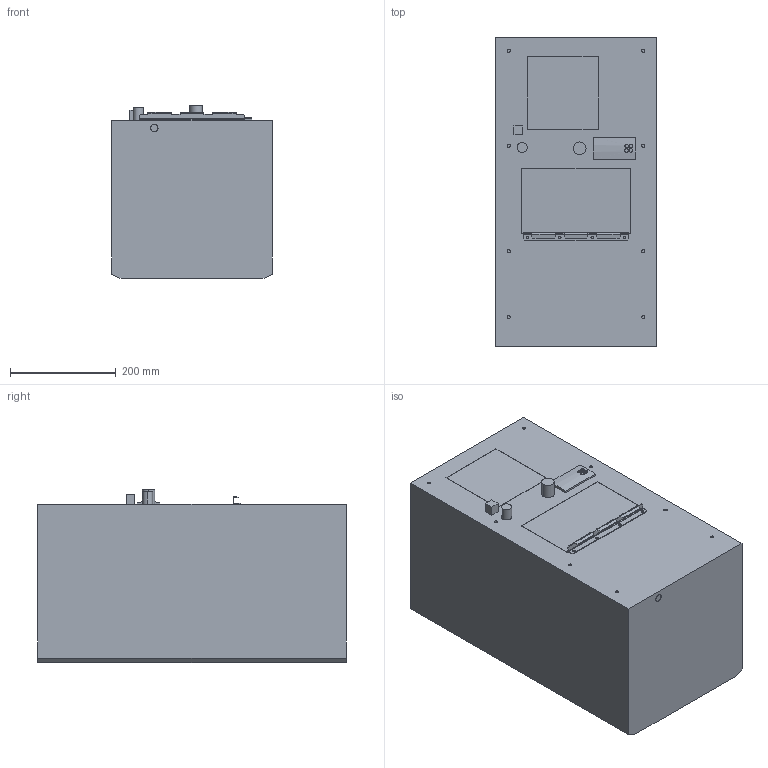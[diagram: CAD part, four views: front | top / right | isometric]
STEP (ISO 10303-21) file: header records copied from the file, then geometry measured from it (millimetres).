
FILE_DESCRIPTION((''),'2;1');
FILE_NAME('OC8708_12-COMPLETE_ASM','2023-12-04T17:41:37',('briang'),(''),'CREO PARAMETRIC BY PTC INC, 2019080','CREO PARAMETRIC BY PTC INC, 2019080','');
FILE_SCHEMA(('CONFIG_CONTROL_DESIGN','SHAPE_APPEARANCE_LAYERS_GROUPS'));
Length unit declared in the file: millimetre
Products named in the file (4): OC8708_12-MOUNTING-BRACKET; OC8708_12-HOUSING_ASM; PRT0003; OC8708_12-COMPLETE_ASM
Assembly tree (3 placements, depth 3):
  OC8708_12-COMPLETE_ASM
    OC8708_12-HOUSING_ASM
      OC8708_12-MOUNTING-BRACKET
    PRT0003
Bounding box: 305 x 585 x 328 mm (x, y, z)
Volume: 53409931.1 mm3; surface area: 904576.1 mm2
Topology: 2 solids, 2 shells, 154 faces, 352 edges, 224 vertices
Faces by surface type: plane 105, cylinder 49
Entity records: 6761 total; most frequent: CARTESIAN_POINT 818, DIRECTION 758, ORIENTED_EDGE 704, PRESENTATION_STYLE_ASSIGNMENT 508, STYLED_ITEM 508, CURVE_STYLE 352, EDGE_CURVE 352, VECTOR 254
